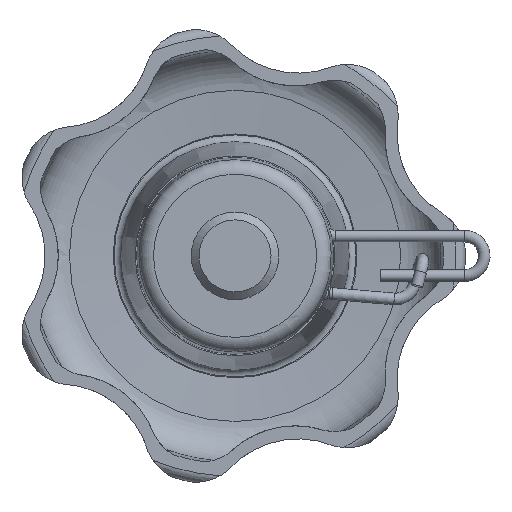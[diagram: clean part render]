
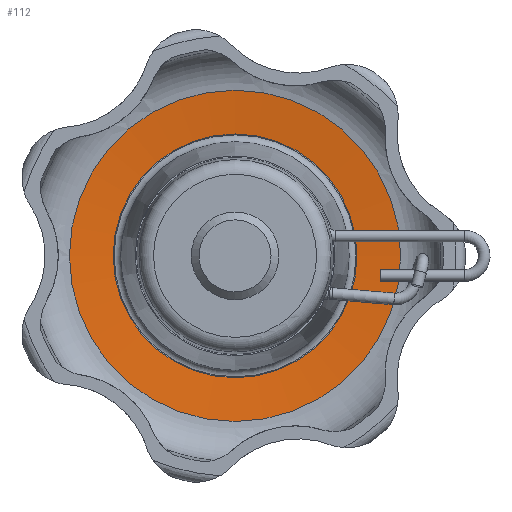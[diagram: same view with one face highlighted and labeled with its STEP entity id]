
A CAD part, front view. The second image highlights one B-rep face of the part: STEP entity #112.
In plain terms, the highlighted conical face has half-angle 84.94 degrees and reference radius 22.669 mm.
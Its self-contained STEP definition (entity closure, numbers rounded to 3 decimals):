
#112 = ADVANCED_FACE( '', ( #271, #272 ), #273, .F. );
#271 = FACE_BOUND( '', #501, .T. );
#272 = FACE_OUTER_BOUND( '', #502, .T. );
#273 = CONICAL_SURFACE( '', #503, 22.669, 1.482 );
#501 = EDGE_LOOP( '', ( #955 ) );
#502 = EDGE_LOOP( '', ( #956 ) );
#503 = AXIS2_PLACEMENT_3D( '', #957, #958, #959 );
#955 = ORIENTED_EDGE( '', *, *, #1574, .F. );
#956 = ORIENTED_EDGE( '', *, *, #1575, .T. );
#957 = CARTESIAN_POINT( '', ( 0., 30.39, 0. ) );
#958 = DIRECTION( '', ( 0., -1., 0. ) );
#959 = DIRECTION( '', ( 0., 0., -1. ) );
#1574 = EDGE_CURVE( '', #1951, #1951, #1952, .T. );
#1575 = EDGE_CURVE( '', #1953, #1953, #1954, .T. );
#1951 = VERTEX_POINT( '', #3037 );
#1952 = CIRCLE( '', #3038, 16.683 );
#1953 = VERTEX_POINT( '', #3039 );
#1954 = CIRCLE( '', #3040, 22.669 );
#3037 = CARTESIAN_POINT( '', ( 0., 30.92, -16.683 ) );
#3038 = AXIS2_PLACEMENT_3D( '', #3911, #3912, #3913 );
#3039 = CARTESIAN_POINT( '', ( 0., 30.39, -22.669 ) );
#3040 = AXIS2_PLACEMENT_3D( '', #3914, #3915, #3916 );
#3911 = CARTESIAN_POINT( '', ( 0., 30.92, 0. ) );
#3912 = DIRECTION( '', ( 0., -1., 0. ) );
#3913 = DIRECTION( '', ( 0., 0., -1. ) );
#3914 = CARTESIAN_POINT( '', ( 0., 30.39, 0. ) );
#3915 = DIRECTION( '', ( 0., -1., 0. ) );
#3916 = DIRECTION( '', ( 0., 0., -1. ) );
